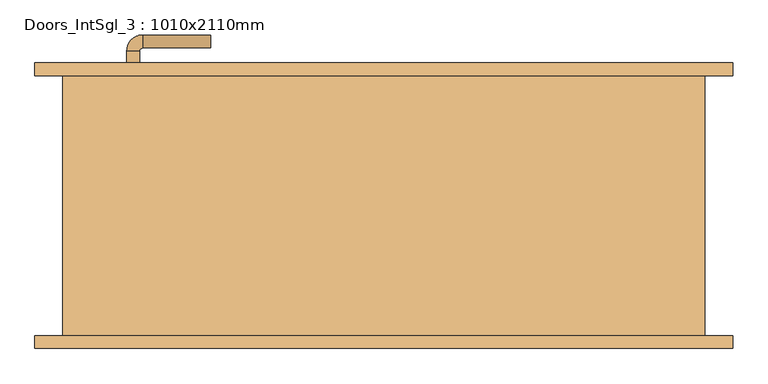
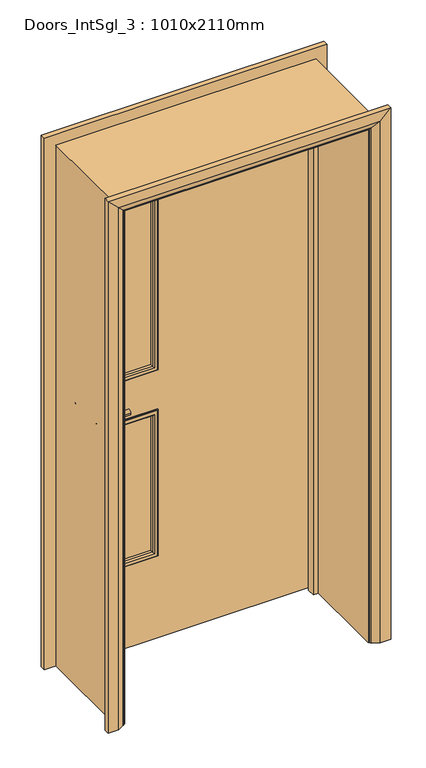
"""IFC4 building model written with IfcOpenShell, lengths in millimetres: door geometry, Doors_IntSgl_3 : 1010x2110mm."""

from ifc_helpers import new_model, si_unit, point, frame, frame_2d, origin, place, context, project, spatial, polyline, circle_curve, ellipse_curve, trimmed, segment, composite_curve, outline, extrude, faceted_brep, source, transform, mapped, element, save
from ifc_brep_helpers import plane_surface, cylinder_surface, revolved_surface, advanced_brep


def doors_intsgl_3_1010x2110mm_e17657ac(model_context):
    return source(origin(), model_context, "Body", "SolidModel", [
        advanced_brep(
        [(-398.0, 155.0, 1000.0), (-378.0, 155.0, 1000.0), (-378.0, 125.0, 1000.0), (-398.0, 125.0, 1000.0), (-373.0, 120.0, 1000.0), (-373.0, 100.0, 1000.0), (-268.0, 100.0, 1000.0), (-268.0, 120.0, 1000.0)],
        [
            (0, 1, circle_curve(frame((-388.0, 155.0, 1000.0), z_axis=(0.0, 1.0, 0.0), x_axis=(1.0, 0.0, 0.0)), 10.0)),
            (1, 0, circle_curve(frame((-388.0, 155.0, 1000.0), z_axis=(0.0, 1.0, 0.0), x_axis=(1.0, 0.0, 0.0)), 10.0)),
            (1, 2),
            (2, 3, circle_curve(frame((-388.0, 125.0, 1000.0), z_axis=(0.0, 1.0, 0.0), x_axis=(1.0, 0.0, 0.0)), 10.0)),
            (3, 0),
            (3, 2, circle_curve(frame((-388.0, 125.0, 1000.0), z_axis=(0.0, 1.0, 0.0), x_axis=(1.0, 0.0, 0.0)), 10.0)),
            (4, 5, circle_curve(frame((-373.0, 110.0, 1000.0), z_axis=(-1.0, 0.0, 0.0), x_axis=(0.0, 1.0, 0.0)), 10.0)),
            (5, 3, circle_curve(frame((-373.0, 125.0, 1000.0), z_axis=(0.0, 0.0, -1.0), x_axis=(-1.0, 0.0, 0.0)), 25.0)),
            (2, 4, circle_curve(frame((-373.0, 125.0, 1000.0), z_axis=(0.0, 0.0, 1.0), x_axis=(-1.0, 0.0, 0.0)), 5.0)),
            (5, 4, circle_curve(frame((-373.0, 110.0, 1000.0), z_axis=(-1.0, 0.0, 0.0), x_axis=(0.0, 1.0, 0.0)), 10.0)),
            (6, 7, circle_curve(frame((-268.0, 110.0, 1000.0), z_axis=(1.0, 0.0, 0.0), x_axis=(0.0, 1.0, 0.0)), 10.0)),
            (7, 6, circle_curve(frame((-268.0, 110.0, 1000.0), z_axis=(1.0, 0.0, 0.0), x_axis=(0.0, 1.0, 0.0)), 10.0)),
            (4, 7),
            (6, 5),
        ],
        [
            plane_surface(frame((-388.0, 155.0, 1000.0), z_axis=(0.0, 1.0, 0.0), x_axis=(0.0, 0.0, 1.0))),
            cylinder_surface(frame((-388.0, 155.0, 1000.0), z_axis=(0.0, 1.0, 0.0), x_axis=(1.0, 0.0, 0.0)), 10.0),
            revolved_surface(trimmed(ellipse_curve(frame((-388.0, 125.0, 1000.0), z_axis=(0.0, -1.0, 0.0), x_axis=(1.0, 0.0, 0.0)), 10.0, 10.0), [point((-398.0, 125.0, 1000.0))], [point((-378.0, 125.0, 1000.0))], True, "CARTESIAN"), (-373.0, 125.0, 1000.0), (0.0, 0.0, -1.0)),
            revolved_surface(trimmed(ellipse_curve(frame((-388.0, 125.0, 1000.0), z_axis=(0.0, -1.0, 0.0), x_axis=(1.0, 0.0, 0.0)), 10.0, 10.0), [point((-378.0, 125.0, 1000.0))], [point((-398.0, 125.0, 1000.0))], True, "CARTESIAN"), (-373.0, 125.0, 1000.0), (0.0, 0.0, -1.0)),
            plane_surface(frame((-268.0, 110.0, 1000.0), z_axis=(1.0, 0.0, 0.0), x_axis=(0.0, 0.0, 1.0))),
            cylinder_surface(frame((-373.0, 110.0, 1000.0), z_axis=(-1.0, 0.0, 0.0), x_axis=(0.0, 1.0, 0.0)), 10.0),
        ],
        [
            (0, [[1, 2]]),
            (1, [[3, 4, 5, -2]]),
            (1, [[-5, 6, -3, -1]]),
            (2, [[7, 8, -4, 9]]),
            (3, [[10, -9, -6, -8]]),
            (4, [[11, 12]]),
            (5, [[13, -11, 14, -7]]),
            (5, [[-14, -12, -13, -10]]),
        ],
    ),
        extrude(outline(composite_curve([segment(trimmed(circle_curve(frame_2d((1000.0, -390.5)), 30.0), [point((1000.0, -420.5))], [point((1000.0, -360.5))], False, "CARTESIAN"), True, "CONTINUOUS"), segment(trimmed(circle_curve(frame_2d((1000.0, -390.5)), 30.0), [point((1000.0, -360.5))], [point((1000.0, -420.5))], False, "CARTESIAN"), True, "CONTINUOUS")], self_intersect=False)), frame((0.0, 155.0, 0.0), z_axis=(0.0, 1.0, 0.0), x_axis=(0.0, 0.0, 1.0)), (0.0, 0.0, 1.0), 8.0),
        advanced_brep(
        [(-398.0, 209.0, 1000.0), (-378.0, 209.0, 1000.0), (-398.0, 239.0, 1000.0), (-378.0, 239.0, 1000.0), (-373.0, 244.0, 1000.0), (-373.0, 264.0, 1000.0), (-268.0, 264.0, 1000.0), (-268.0, 244.0, 1000.0)],
        [
            (0, 1, circle_curve(frame((-388.0, 209.0, 1000.0), z_axis=(0.0, -1.0, 0.0), x_axis=(1.0, 0.0, 0.0)), 10.0)),
            (1, 0, circle_curve(frame((-388.0, 209.0, 1000.0), z_axis=(0.0, -1.0, 0.0), x_axis=(1.0, 0.0, 0.0)), 10.0)),
            (0, 2),
            (2, 3, circle_curve(frame((-388.0, 239.0, 1000.0), z_axis=(0.0, -1.0, 0.0), x_axis=(1.0, 0.0, 0.0)), 10.0)),
            (3, 1),
            (3, 2, circle_curve(frame((-388.0, 239.0, 1000.0), z_axis=(0.0, -1.0, 0.0), x_axis=(1.0, 0.0, 0.0)), 10.0)),
            (4, 3, circle_curve(frame((-373.0, 239.0, 1000.0), z_axis=(0.0, 0.0, 1.0), x_axis=(-1.0, 0.0, 0.0)), 5.0)),
            (2, 5, circle_curve(frame((-373.0, 239.0, 1000.0), z_axis=(0.0, 0.0, -1.0), x_axis=(-1.0, 0.0, 0.0)), 25.0)),
            (5, 4, circle_curve(frame((-373.0, 254.0, 1000.0), z_axis=(-1.0, 0.0, 0.0), x_axis=(0.0, -1.0, 0.0)), 10.0)),
            (4, 5, circle_curve(frame((-373.0, 254.0, 1000.0), z_axis=(-1.0, 0.0, 0.0), x_axis=(0.0, -1.0, 0.0)), 10.0)),
            (6, 7, circle_curve(frame((-268.0, 254.0, 1000.0), z_axis=(1.0, 0.0, 0.0), x_axis=(0.0, -1.0, 0.0)), 10.0)),
            (7, 6, circle_curve(frame((-268.0, 254.0, 1000.0), z_axis=(1.0, 0.0, 0.0), x_axis=(0.0, -1.0, 0.0)), 10.0)),
            (5, 6),
            (7, 4),
        ],
        [
            plane_surface(frame((-388.0, 209.0, 1000.0), z_axis=(0.0, -1.0, 0.0), x_axis=(0.0, 0.0, 1.0))),
            cylinder_surface(frame((-388.0, 209.0, 1000.0), z_axis=(0.0, -1.0, 0.0), x_axis=(1.0, 0.0, 0.0)), 10.0),
            revolved_surface(trimmed(ellipse_curve(frame((-388.0, 239.0, 1000.0), z_axis=(0.0, -1.0, 0.0), x_axis=(1.0, 0.0, 0.0)), 10.0, 10.0), [point((-398.0, 239.0, 1000.0))], [point((-378.0, 239.0, 1000.0))], True, "CARTESIAN"), (-373.0, 239.0, 1000.0), (0.0, 0.0, -1.0)),
            revolved_surface(trimmed(ellipse_curve(frame((-388.0, 239.0, 1000.0), z_axis=(0.0, -1.0, 0.0), x_axis=(1.0, 0.0, 0.0)), 10.0, 10.0), [point((-378.0, 239.0, 1000.0))], [point((-398.0, 239.0, 1000.0))], True, "CARTESIAN"), (-373.0, 239.0, 1000.0), (0.0, 0.0, -1.0)),
            plane_surface(frame((-268.0, 254.0, 1000.0), z_axis=(1.0, 0.0, 0.0), x_axis=(0.0, 0.0, 1.0))),
            cylinder_surface(frame((-373.0, 254.0, 1000.0), z_axis=(-1.0, 0.0, 0.0), x_axis=(0.0, -1.0, 0.0)), 10.0),
        ],
        [
            (0, [[1, 2]]),
            (1, [[-1, 3, 4, 5]]),
            (1, [[-2, -5, 6, -3]]),
            (2, [[7, -4, 8, 9]]),
            (3, [[-8, -6, -7, 10]]),
            (4, [[11, 12]]),
            (5, [[-9, 13, -12, 14]]),
            (5, [[-10, -14, -11, -13]]),
        ],
    ),
        extrude(outline(composite_curve([segment(trimmed(circle_curve(frame_2d((1000.0, -390.5)), 30.0), [point((1000.0, -420.5))], [point((1000.0, -360.5))], False, "CARTESIAN"), True, "CONTINUOUS"), segment(trimmed(circle_curve(frame_2d((1000.0, -390.5)), 30.0), [point((1000.0, -360.5))], [point((1000.0, -420.5))], False, "CARTESIAN"), True, "CONTINUOUS")], self_intersect=False)), frame((0.0, 201.0, 0.0), z_axis=(0.0, 1.0, 0.0), x_axis=(0.0, 0.0, 1.0)), (0.0, 0.0, 1.0), 8.0),
        extrude(outline(polyline([(2068.0, -463.0), (8.0, -463.0), (8.0, 463.0), (2068.0, 463.0), (2068.0, -463.0)]), holes=[polyline([(1843.0, -138.0), (1100.0, -138.0), (1100.0, -338.0), (1843.0, -338.0), (1843.0, -138.0)]), polyline([(925.0, -338.0), (925.0, -138.0), (350.0, -138.0), (350.0, -338.0), (925.0, -338.0)])]), frame((0.0, 163.0, 0.0), z_axis=(0.0, 1.0, 0.0), x_axis=(0.0, 0.0, 1.0)), (0.0, 0.0, 1.0), 38.0),
        advanced_brep(
        [(540.0, 221.0, 0.0), (540.0, 201.0, 0.0), (470.0, 201.0, 0.0), (474.0, 207.0, 0.0), (500.0, 221.0, 0.0), (540.0, 221.0, 2145.0), (540.0, 201.0, 2145.0), (-540.0, 201.0, 2145.0), (-540.0, 201.0, 0.0), (-470.0, 201.0, 0.0), (-470.0, 201.0, 2075.0), (470.0, 201.0, 2075.0), (474.0, 207.0, 2079.0), (500.0, 221.0, 2105.0), (-500.0, 221.0, 2105.0), (-500.0, 221.0, 0.0), (-540.0, 221.0, 0.0), (-540.0, 221.0, 2145.0), (-474.0, 207.0, 0.0), (-474.0, 207.0, 2079.0)],
        [
            (0, 1),
            (1, 2),
            (2, 3, circle_curve(frame((478.0, 200.0, 0.0), z_axis=(0.0, 0.0, -1.0), x_axis=(1.0, 0.0, 0.0)), 8.0622577)),
            (3, 4),
            (4, 0),
            (0, 5),
            (5, 6),
            (6, 1),
            (6, 7),
            (7, 8),
            (8, 9),
            (9, 10),
            (10, 11),
            (11, 2),
            (11, 12, ellipse_curve(frame((478.0, 200.0, 2083.0), z_axis=(0.7071067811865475, 0.0, -0.7071067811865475), x_axis=(-0.7071067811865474, 0.0, -0.7071067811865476)), 11.4017543, 8.0622577)),
            (12, 3),
            (12, 13),
            (13, 4),
            (13, 14),
            (14, 15),
            (15, 16),
            (16, 17),
            (17, 5),
            (7, 17),
            (16, 8),
            (15, 18),
            (18, 9, circle_curve(frame((-478.0, 200.0, 0.0), z_axis=(0.0, 0.0, -1.0), x_axis=(-1.0, 0.0, 0.0)), 8.0622577)),
            (19, 10, ellipse_curve(frame((-478.0, 200.0, 2083.0), z_axis=(-0.7071067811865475, 0.0, -0.7071067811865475), x_axis=(-0.7071067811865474, 0.0, 0.7071067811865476)), 11.4017543, 8.0622577)),
            (18, 19),
            (14, 19),
            (19, 12),
        ],
        [
            plane_surface(frame((470.0, 201.0, 0.0), z_axis=(0.0, 0.0, -1.0), x_axis=(0.0, -1.0, 0.0))),
            plane_surface(frame((540.0, 221.0, 0.0), z_axis=(1.0, 0.0, 0.0), x_axis=(0.0, 0.0, 1.0))),
            plane_surface(frame((540.0, 201.0, 0.0), z_axis=(0.0, -1.0, 0.0), x_axis=(0.0, 0.0, 1.0))),
            cylinder_surface(frame((478.0, 200.0, 0.0), z_axis=(0.0, 0.0, -1.0), x_axis=(1.0, 0.0, 0.0)), 8.0622577),
            plane_surface(frame((474.0, 207.0, 0.0), z_axis=(-0.4740998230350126, 0.8804710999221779, 0.0), x_axis=(0.0, 0.0, 1.0))),
            plane_surface(frame((500.0, 221.0, 0.0), z_axis=(0.0, 1.0, 0.0), x_axis=(0.0, 0.0, 1.0))),
            plane_surface(frame((-540.0, 221.0, 2145.0), z_axis=(-1.0, 0.0, 0.0), x_axis=(0.0, 0.0, -1.0))),
            plane_surface(frame((-470.0, 201.0, 0.0), z_axis=(0.0, 0.0, -1.0), x_axis=(0.0, -1.0, 0.0))),
            cylinder_surface(frame((-478.0, 200.0, 2075.0), z_axis=(0.0, 0.0, 1.0), x_axis=(-1.0, 0.0, 0.0)), 8.0622577),
            plane_surface(frame((-474.0, 207.0, 2079.0), z_axis=(0.4740998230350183, 0.8804710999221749, 0.0), x_axis=(0.0, 0.0, -1.0))),
            plane_surface(frame((540.0, 221.0, 2145.0), z_axis=(0.0, 0.0, 1.0), x_axis=(-1.0, 0.0, 0.0))),
            cylinder_surface(frame((470.0, 200.0, 2083.0), z_axis=(1.0, 0.0, 0.0), x_axis=(0.0, 0.0, 1.0)), 8.0622577),
            plane_surface(frame((474.0, 207.0, 2079.0), z_axis=(0.0, 0.8804710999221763, -0.4740998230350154), x_axis=(-1.0, 0.0, 0.0))),
        ],
        [
            (0, [[1, 2, 3, 4, 5]]),
            (1, [[-1, 6, 7, 8]]),
            (2, [[-2, -8, 9, 10, 11, 12, 13, 14]]),
            (3, [[-3, -14, 15, 16]]),
            (4, [[-4, -16, 17, 18]]),
            (5, [[-5, -18, 19, 20, 21, 22, 23, -6]]),
            (6, [[24, -22, 25, -10]]),
            (7, [[-21, 26, 27, -11, -25]]),
            (8, [[28, -12, -27, 29]]),
            (9, [[30, -29, -26, -20]]),
            (10, [[-7, -23, -24, -9]]),
            (11, [[-15, -13, -28, 31]]),
            (12, [[-17, -31, -30, -19]]),
        ],
    ),
        extrude(outline(polyline([(0.0, -465.0), (0.0, -446.0), (2051.0, -446.0), (2051.0, 446.0), (0.0, 446.0), (0.0, 465.0), (2070.0, 465.0), (2070.0, -465.0), (0.0, -465.0)])), frame((0.0, 129.0, 0.0), z_axis=(0.0, 1.0, 0.0), x_axis=(0.0, 0.0, 1.0)), (0.0, 0.0, 1.0), 32.0),
        advanced_brep(
        [(-540.0, -221.0, 0.0), (-540.0, -201.0, 0.0), (-470.0, -201.0, 0.0), (-474.0, -207.0, 0.0), (-500.0, -221.0, 0.0), (-540.0, -221.0, 2145.0), (-540.0, -201.0, 2145.0), (-470.0, -201.0, 2075.0), (-474.0, -207.0, 2079.0), (-500.0, -221.0, 2105.0), (540.0, -221.0, 0.0), (500.0, -221.0, 0.0), (474.0, -207.0, 0.0), (470.0, -201.0, 0.0), (540.0, -201.0, 0.0), (540.0, -221.0, 2145.0), (500.0, -221.0, 2105.0), (474.0, -207.0, 2079.0), (470.0, -201.0, 2075.0), (540.0, -201.0, 2145.0)],
        [
            (0, 1),
            (1, 2),
            (2, 3, circle_curve(frame((-478.0, -200.0, 0.0), z_axis=(0.0, 0.0, -1.0), x_axis=(-1.0, 0.0, 0.0)), 8.0622577)),
            (3, 4),
            (4, 0),
            (0, 5),
            (5, 6),
            (6, 1),
            (6, 7),
            (7, 2),
            (7, 8, ellipse_curve(frame((-478.0, -200.0, 2083.0), z_axis=(-0.7071067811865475, 0.0, -0.7071067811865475), x_axis=(0.7071067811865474, 0.0, -0.7071067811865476)), 11.4017543, 8.0622577)),
            (8, 3),
            (8, 9),
            (9, 4),
            (9, 5),
            (10, 11),
            (11, 12),
            (12, 13, circle_curve(frame((478.0, -200.0, 0.0), z_axis=(0.0, 0.0, -1.0), x_axis=(1.0, 0.0, 0.0)), 8.0622577)),
            (13, 14),
            (14, 10),
            (15, 16),
            (16, 11),
            (10, 15),
            (16, 17),
            (17, 12),
            (17, 18, ellipse_curve(frame((478.0, -200.0, 2083.0), z_axis=(0.7071067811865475, 0.0, -0.7071067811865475), x_axis=(0.7071067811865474, 0.0, 0.7071067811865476)), 11.4017543, 8.0622577)),
            (18, 13),
            (18, 19),
            (19, 14),
            (19, 15),
            (5, 15),
            (19, 6),
            (18, 7),
            (17, 8),
            (16, 9),
        ],
        [
            plane_surface(frame((-470.0, -273.8010989, 0.0), z_axis=(0.0, 0.0, -1.0), x_axis=(1.0, 0.0, 0.0))),
            plane_surface(frame((-540.0, -221.0, 0.0), z_axis=(-1.0, 0.0, 0.0), x_axis=(0.0, 0.0, 1.0))),
            plane_surface(frame((-540.0, -201.0, 0.0), z_axis=(0.0, 1.0, 0.0), x_axis=(0.0, 0.0, 1.0))),
            cylinder_surface(frame((-478.0, -200.0, 0.0), z_axis=(0.0, 0.0, -1.0), x_axis=(-1.0, 0.0, 0.0)), 8.0622577),
            plane_surface(frame((-474.0, -207.0, 0.0), z_axis=(0.4740998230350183, -0.8804710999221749, 0.0), x_axis=(0.0, 0.0, 1.0))),
            plane_surface(frame((-500.0, -221.0, 0.0), z_axis=(0.0, -1.0, 0.0), x_axis=(0.0, 0.0, 1.0))),
            plane_surface(frame((470.0, -273.8010989, 0.0), z_axis=(0.0, 0.0, -1.0), x_axis=(-1.0, 0.0, 0.0))),
            plane_surface(frame((500.0, -221.0, 2105.0), z_axis=(0.0, -1.0, 0.0), x_axis=(0.0, 0.0, -1.0))),
            plane_surface(frame((474.0, -207.0, 2079.0), z_axis=(-0.4740998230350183, -0.8804710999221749, 0.0), x_axis=(0.0, 0.0, -1.0))),
            cylinder_surface(frame((478.0, -200.0, 2075.0), z_axis=(0.0, 0.0, 1.0), x_axis=(1.0, 0.0, 0.0)), 8.0622577),
            plane_surface(frame((540.0, -201.0, 2145.0), z_axis=(0.0, 1.0, 0.0), x_axis=(0.0, 0.0, -1.0))),
            plane_surface(frame((540.0, -221.0, 2145.0), z_axis=(1.0, 0.0, 0.0), x_axis=(0.0, 0.0, -1.0))),
            plane_surface(frame((-540.0, -221.0, 2145.0), z_axis=(0.0, 0.0, 1.0), x_axis=(1.0, 0.0, 0.0))),
            plane_surface(frame((-540.0, -201.0, 2145.0), z_axis=(0.0, 1.0, 0.0), x_axis=(1.0, 0.0, 0.0))),
            cylinder_surface(frame((-470.0, -200.0, 2083.0), z_axis=(-1.0, 0.0, 0.0), x_axis=(0.0, 0.0, 1.0)), 8.0622577),
            plane_surface(frame((-474.0, -207.0, 2079.0), z_axis=(0.0, -0.8804710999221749, -0.4740998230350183), x_axis=(1.0, 0.0, 0.0))),
            plane_surface(frame((-500.0, -221.0, 2105.0), z_axis=(0.0, -1.0, 0.0), x_axis=(1.0, 0.0, 0.0))),
        ],
        [
            (0, [[1, 2, 3, 4, 5]]),
            (1, [[-1, 6, 7, 8]]),
            (2, [[-2, -8, 9, 10]]),
            (3, [[-3, -10, 11, 12]]),
            (4, [[-4, -12, 13, 14]]),
            (5, [[-5, -14, 15, -6]]),
            (6, [[16, 17, 18, 19, 20]]),
            (7, [[21, 22, -16, 23]]),
            (8, [[24, 25, -17, -22]]),
            (9, [[26, 27, -18, -25]]),
            (10, [[28, 29, -19, -27]]),
            (11, [[30, -23, -20, -29]]),
            (12, [[-7, 31, -30, 32]]),
            (13, [[-9, -32, -28, 33]]),
            (14, [[-11, -33, -26, 34]]),
            (15, [[-13, -34, -24, 35]]),
            (16, [[-15, -35, -21, -31]]),
        ],
    ),
        faceted_brep([(-465.0, 201.0, 0.0), (-465.0, -201.0, 0.0), (-497.0, -201.0, 0.0), (-497.0, 201.0, 0.0), (-465.0, 201.0, 2070.0), (-465.0, -201.0, 2070.0), (-497.0, -201.0, 2102.0), (-497.0, 201.0, 2102.0), (465.0, 201.0, 0.0), (497.0, 201.0, 0.0), (497.0, -201.0, 0.0), (465.0, -201.0, 0.0), (465.0, 201.0, 2070.0), (497.0, 201.0, 2102.0), (497.0, -201.0, 2102.0), (465.0, -201.0, 2070.0)], [[[0, 1, 2, 3]], [[1, 0, 4, 5]], [[2, 1, 5, 6]], [[3, 2, 6, 7]], [[0, 3, 7, 4]], [[8, 9, 10, 11]], [[12, 13, 9, 8]], [[13, 14, 10, 9]], [[14, 15, 11, 10]], [[15, 12, 8, 11]], [[5, 4, 12, 15]], [[6, 5, 15, 14]], [[7, 6, 14, 13]], [[4, 7, 13, 12]]]),
        advanced_brep(
        [(-138.0, 173.0, 925.0), (-138.0, 163.0, 925.0), (-138.0, 163.0, 350.0), (-138.0, 173.0, 350.0), (-150.0, 162.0, 913.0), (-150.0, 173.0, 913.0), (-150.0, 173.0, 362.0), (-150.0, 162.0, 362.0), (-145.0, 157.0, 918.0), (-145.0, 157.0, 357.0), (-130.0, 159.0, 933.0), (-132.0, 157.0, 931.0), (-132.0, 157.0, 344.0), (-130.0, 159.0, 342.0), (-130.0, 163.0, 933.0), (-130.0, 163.0, 342.0), (-338.0, 163.0, 350.0), (-338.0, 173.0, 350.0), (-326.0, 173.0, 362.0), (-326.0, 162.0, 362.0), (-331.0, 157.0, 357.0), (-344.0, 157.0, 344.0), (-346.0, 159.0, 342.0), (-346.0, 163.0, 342.0), (-338.0, 163.0, 925.0), (-338.0, 173.0, 925.0), (-326.0, 173.0, 913.0), (-326.0, 162.0, 913.0), (-331.0, 157.0, 918.0), (-344.0, 157.0, 931.0), (-346.0, 159.0, 933.0), (-346.0, 163.0, 933.0)],
        [
            (0, 1),
            (1, 2),
            (2, 3),
            (3, 0),
            (4, 5),
            (5, 6),
            (6, 7),
            (7, 4),
            (8, 4, ellipse_curve(frame((-145.0, 162.0, 918.0), z_axis=(0.7071067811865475, 0.0, -0.7071067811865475), x_axis=(0.7071067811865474, 0.0, 0.7071067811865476)), 7.0710678, 5.0)),
            (7, 9, ellipse_curve(frame((-145.0, 162.0, 357.0), z_axis=(0.7071067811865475, 0.0, 0.7071067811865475), x_axis=(-0.7071067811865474, 0.0, 0.7071067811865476)), 7.0710678, 5.0)),
            (9, 8),
            (10, 11, ellipse_curve(frame((-132.0, 159.0, 931.0), z_axis=(0.7071067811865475, 0.0, -0.7071067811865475), x_axis=(0.7071067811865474, 0.0, 0.7071067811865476)), 2.8284271, 2.0)),
            (11, 12),
            (12, 13, ellipse_curve(frame((-132.0, 159.0, 344.0), z_axis=(0.7071067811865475, 0.0, 0.7071067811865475), x_axis=(-0.7071067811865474, 0.0, 0.7071067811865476)), 2.8284271, 2.0)),
            (13, 10),
            (14, 10),
            (13, 15),
            (15, 14),
            (2, 16),
            (16, 17),
            (17, 3),
            (6, 18),
            (18, 19),
            (19, 7),
            (19, 20, ellipse_curve(frame((-331.0, 162.0, 357.0), z_axis=(0.7071067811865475, 0.0, -0.7071067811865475), x_axis=(0.7071067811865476, 0.0, 0.7071067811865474)), 7.0710678, 5.0)),
            (20, 9),
            (12, 21),
            (21, 22, ellipse_curve(frame((-344.0, 159.0, 344.0), z_axis=(0.7071067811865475, 0.0, -0.7071067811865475), x_axis=(0.7071067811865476, 0.0, 0.7071067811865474)), 2.8284271, 2.0)),
            (22, 13),
            (22, 23),
            (23, 15),
            (16, 24),
            (24, 25),
            (25, 17),
            (18, 26),
            (26, 27),
            (27, 19),
            (27, 28, ellipse_curve(frame((-331.0, 162.0, 918.0), z_axis=(-0.7071067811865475, 0.0, -0.7071067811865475), x_axis=(0.7071067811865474, 0.0, -0.7071067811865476)), 7.0710678, 5.0)),
            (28, 20),
            (21, 29),
            (29, 30, ellipse_curve(frame((-344.0, 159.0, 931.0), z_axis=(-0.7071067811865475, 0.0, -0.7071067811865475), x_axis=(0.7071067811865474, 0.0, -0.7071067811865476)), 2.8284271, 2.0)),
            (30, 22),
            (30, 31),
            (31, 23),
            (31, 14),
            (1, 24),
            (0, 25),
            (5, 26),
            (4, 27),
            (8, 28),
            (11, 29),
            (10, 30),
        ],
        [
            plane_surface(frame((-138.0, 163.0, 925.0), z_axis=(1.0, 0.0, 0.0), x_axis=(0.0, 0.0, -1.0))),
            plane_surface(frame((-150.0, 173.0, 913.0), z_axis=(-1.0, 0.0, 0.0), x_axis=(0.0, 0.0, -1.0))),
            cylinder_surface(frame((-145.0, 162.0, 925.0), z_axis=(0.0, 0.0, 1.0), x_axis=(1.0, 0.0, 0.0)), 5.0),
            cylinder_surface(frame((-132.0, 159.0, 925.0), z_axis=(0.0, 0.0, 1.0), x_axis=(1.0, 0.0, 0.0)), 2.0),
            plane_surface(frame((-130.0, 159.0, 933.0), z_axis=(1.0, 0.0, 0.0), x_axis=(0.0, 0.0, -1.0))),
            plane_surface(frame((-138.0, 163.0, 350.0), z_axis=(0.0, 0.0, -1.0), x_axis=(-1.0, 0.0, 0.0))),
            plane_surface(frame((-150.0, 173.0, 362.0), z_axis=(0.0, 0.0, 1.0), x_axis=(-1.0, 0.0, 0.0))),
            cylinder_surface(frame((-138.0, 162.0, 357.0), z_axis=(1.0, 0.0, 0.0), x_axis=(0.0, 0.0, -1.0)), 5.0),
            cylinder_surface(frame((-138.0, 159.0, 344.0), z_axis=(1.0, 0.0, 0.0), x_axis=(0.0, 0.0, -1.0)), 2.0),
            plane_surface(frame((-130.0, 159.0, 342.0), z_axis=(0.0, 0.0, -1.0), x_axis=(-1.0, 0.0, 0.0))),
            plane_surface(frame((-338.0, 163.0, 350.0), z_axis=(-1.0, 0.0, 0.0), x_axis=(0.0, 0.0, 1.0))),
            plane_surface(frame((-326.0, 173.0, 362.0), z_axis=(1.0, 0.0, 0.0), x_axis=(0.0, 0.0, 1.0))),
            cylinder_surface(frame((-331.0, 162.0, 350.0), z_axis=(0.0, 0.0, -1.0), x_axis=(-1.0, 0.0, 0.0)), 5.0),
            cylinder_surface(frame((-344.0, 159.0, 350.0), z_axis=(0.0, 0.0, -1.0), x_axis=(-1.0, 0.0, 0.0)), 2.0),
            plane_surface(frame((-346.0, 159.0, 342.0), z_axis=(-1.0, 0.0, 0.0), x_axis=(0.0, 0.0, 1.0))),
            plane_surface(frame((-346.0, 163.0, 933.0), z_axis=(0.0, 1.0, 0.0), x_axis=(1.0, 0.0, 0.0))),
            plane_surface(frame((-338.0, 163.0, 925.0), z_axis=(0.0, 0.0, 1.0), x_axis=(1.0, 0.0, 0.0))),
            plane_surface(frame((-338.0, 173.0, 925.0), z_axis=(0.0, 1.0, 0.0), x_axis=(1.0, 0.0, 0.0))),
            plane_surface(frame((-326.0, 173.0, 913.0), z_axis=(0.0, 0.0, -1.0), x_axis=(1.0, 0.0, 0.0))),
            cylinder_surface(frame((-338.0, 162.0, 918.0), z_axis=(-1.0, 0.0, 0.0), x_axis=(0.0, 0.0, 1.0)), 5.0),
            plane_surface(frame((-331.0, 157.0, 918.0), z_axis=(0.0, -1.0, 0.0), x_axis=(1.0, 0.0, 0.0))),
            cylinder_surface(frame((-338.0, 159.0, 931.0), z_axis=(-1.0, 0.0, 0.0), x_axis=(0.0, 0.0, 1.0)), 2.0),
            plane_surface(frame((-346.0, 159.0, 933.0), z_axis=(0.0, 0.0, 1.0), x_axis=(1.0, 0.0, 0.0))),
        ],
        [
            (0, [[1, 2, 3, 4]]),
            (1, [[5, 6, 7, 8]]),
            (2, [[9, -8, 10, 11]]),
            (3, [[12, 13, 14, 15]]),
            (4, [[16, -15, 17, 18]]),
            (5, [[-3, 19, 20, 21]]),
            (6, [[-7, 22, 23, 24]]),
            (7, [[-10, -24, 25, 26]]),
            (8, [[-14, 27, 28, 29]]),
            (9, [[-17, -29, 30, 31]]),
            (10, [[-20, 32, 33, 34]]),
            (11, [[-23, 35, 36, 37]]),
            (12, [[-25, -37, 38, 39]]),
            (13, [[-28, 40, 41, 42]]),
            (14, [[-30, -42, 43, 44]]),
            (15, [[-31, -44, 45, -18], [46, -32, -19, -2]]),
            (16, [[-33, -46, -1, 47]]),
            (17, [[-21, -34, -47, -4], [48, -35, -22, -6]]),
            (18, [[-36, -48, -5, 49]]),
            (19, [[-38, -49, -9, 50]]),
            (20, [[51, -40, -27, -13], [-26, -39, -50, -11]]),
            (21, [[-41, -51, -12, 52]]),
            (22, [[-43, -52, -16, -45]]),
        ],
    ),
        advanced_brep(
        [(-338.0, 191.0, 925.0), (-338.0, 201.0, 925.0), (-338.0, 201.0, 350.0), (-338.0, 191.0, 350.0), (-326.0, 202.0, 913.0), (-326.0, 191.0, 913.0), (-326.0, 191.0, 362.0), (-326.0, 202.0, 362.0), (-331.0, 207.0, 918.0), (-331.0, 207.0, 357.0), (-346.0, 205.0, 933.0), (-344.0, 207.0, 931.0), (-344.0, 207.0, 344.0), (-346.0, 205.0, 342.0), (-346.0, 201.0, 933.0), (-346.0, 201.0, 342.0), (-138.0, 201.0, 350.0), (-138.0, 191.0, 350.0), (-150.0, 191.0, 362.0), (-150.0, 202.0, 362.0), (-145.0, 207.0, 357.0), (-132.0, 207.0, 344.0), (-130.0, 205.0, 342.0), (-130.0, 201.0, 342.0), (-138.0, 201.0, 925.0), (-138.0, 191.0, 925.0), (-150.0, 191.0, 913.0), (-150.0, 202.0, 913.0), (-145.0, 207.0, 918.0), (-132.0, 207.0, 931.0), (-130.0, 205.0, 933.0), (-130.0, 201.0, 933.0)],
        [
            (0, 1),
            (1, 2),
            (2, 3),
            (3, 0),
            (4, 5),
            (5, 6),
            (6, 7),
            (7, 4),
            (8, 4, ellipse_curve(frame((-331.0, 202.0, 918.0), z_axis=(-0.7071067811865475, 0.0, -0.7071067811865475), x_axis=(-0.7071067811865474, 0.0, 0.7071067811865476)), 7.0710678, 5.0)),
            (7, 9, ellipse_curve(frame((-331.0, 202.0, 357.0), z_axis=(-0.7071067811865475, 0.0, 0.7071067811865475), x_axis=(0.7071067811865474, 0.0, 0.7071067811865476)), 7.0710678, 5.0)),
            (9, 8),
            (10, 11, ellipse_curve(frame((-344.0, 205.0, 931.0), z_axis=(-0.7071067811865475, 0.0, -0.7071067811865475), x_axis=(-0.7071067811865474, 0.0, 0.7071067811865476)), 2.8284271, 2.0)),
            (11, 12),
            (12, 13, ellipse_curve(frame((-344.0, 205.0, 344.0), z_axis=(-0.7071067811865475, 0.0, 0.7071067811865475), x_axis=(0.7071067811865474, 0.0, 0.7071067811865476)), 2.8284271, 2.0)),
            (13, 10),
            (14, 10),
            (13, 15),
            (15, 14),
            (2, 16),
            (16, 17),
            (17, 3),
            (6, 18),
            (18, 19),
            (19, 7),
            (19, 20, ellipse_curve(frame((-145.0, 202.0, 357.0), z_axis=(-0.7071067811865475, 0.0, -0.7071067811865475), x_axis=(-0.7071067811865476, 0.0, 0.7071067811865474)), 7.0710678, 5.0)),
            (20, 9),
            (12, 21),
            (21, 22, ellipse_curve(frame((-132.0, 205.0, 344.0), z_axis=(-0.7071067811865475, 0.0, -0.7071067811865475), x_axis=(-0.7071067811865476, 0.0, 0.7071067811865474)), 2.8284271, 2.0)),
            (22, 13),
            (22, 23),
            (23, 15),
            (16, 24),
            (24, 25),
            (25, 17),
            (18, 26),
            (26, 27),
            (27, 19),
            (27, 28, ellipse_curve(frame((-145.0, 202.0, 918.0), z_axis=(0.7071067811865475, 0.0, -0.7071067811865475), x_axis=(-0.7071067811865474, 0.0, -0.7071067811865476)), 7.0710678, 5.0)),
            (28, 20),
            (21, 29),
            (29, 30, ellipse_curve(frame((-132.0, 205.0, 931.0), z_axis=(0.7071067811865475, 0.0, -0.7071067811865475), x_axis=(-0.7071067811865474, 0.0, -0.7071067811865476)), 2.8284271, 2.0)),
            (30, 22),
            (30, 31),
            (31, 23),
            (31, 14),
            (1, 24),
            (0, 25),
            (5, 26),
            (4, 27),
            (8, 28),
            (11, 29),
            (10, 30),
        ],
        [
            plane_surface(frame((-338.0, 201.0, 925.0), z_axis=(-1.0, 0.0, 0.0), x_axis=(0.0, 0.0, -1.0))),
            plane_surface(frame((-326.0, 191.0, 913.0), z_axis=(1.0, 0.0, 0.0), x_axis=(0.0, 0.0, -1.0))),
            cylinder_surface(frame((-331.0, 202.0, 925.0), z_axis=(0.0, 0.0, 1.0), x_axis=(-1.0, 0.0, 0.0)), 5.0),
            cylinder_surface(frame((-344.0, 205.0, 925.0), z_axis=(0.0, 0.0, 1.0), x_axis=(-1.0, 0.0, 0.0)), 2.0),
            plane_surface(frame((-346.0, 205.0, 933.0), z_axis=(-1.0, 0.0, 0.0), x_axis=(0.0, 0.0, -1.0))),
            plane_surface(frame((-338.0, 201.0, 350.0), z_axis=(0.0, 0.0, -1.0), x_axis=(1.0, 0.0, 0.0))),
            plane_surface(frame((-326.0, 191.0, 362.0), z_axis=(0.0, 0.0, 1.0), x_axis=(1.0, 0.0, 0.0))),
            cylinder_surface(frame((-338.0, 202.0, 357.0), z_axis=(-1.0, 0.0, 0.0), x_axis=(0.0, 0.0, -1.0)), 5.0),
            cylinder_surface(frame((-338.0, 205.0, 344.0), z_axis=(-1.0, 0.0, 0.0), x_axis=(0.0, 0.0, -1.0)), 2.0),
            plane_surface(frame((-346.0, 205.0, 342.0), z_axis=(0.0, 0.0, -1.0), x_axis=(1.0, 0.0, 0.0))),
            plane_surface(frame((-138.0, 201.0, 350.0), z_axis=(1.0, 0.0, 0.0), x_axis=(0.0, 0.0, 1.0))),
            plane_surface(frame((-150.0, 191.0, 362.0), z_axis=(-1.0, 0.0, 0.0), x_axis=(0.0, 0.0, 1.0))),
            cylinder_surface(frame((-145.0, 202.0, 350.0), z_axis=(0.0, 0.0, -1.0), x_axis=(1.0, 0.0, 0.0)), 5.0),
            cylinder_surface(frame((-132.0, 205.0, 350.0), z_axis=(0.0, 0.0, -1.0), x_axis=(1.0, 0.0, 0.0)), 2.0),
            plane_surface(frame((-130.0, 205.0, 342.0), z_axis=(1.0, 0.0, 0.0), x_axis=(0.0, 0.0, 1.0))),
            plane_surface(frame((-130.0, 201.0, 933.0), z_axis=(0.0, -1.0, 0.0), x_axis=(-1.0, 0.0, 0.0))),
            plane_surface(frame((-138.0, 201.0, 925.0), z_axis=(0.0, 0.0, 1.0), x_axis=(-1.0, 0.0, 0.0))),
            plane_surface(frame((-138.0, 191.0, 925.0), z_axis=(0.0, -1.0, 0.0), x_axis=(-1.0, 0.0, 0.0))),
            plane_surface(frame((-150.0, 191.0, 913.0), z_axis=(0.0, 0.0, -1.0), x_axis=(-1.0, 0.0, 0.0))),
            cylinder_surface(frame((-138.0, 202.0, 918.0), z_axis=(1.0, 0.0, 0.0), x_axis=(0.0, 0.0, 1.0)), 5.0),
            plane_surface(frame((-145.0, 207.0, 918.0), z_axis=(0.0, 1.0, 0.0), x_axis=(-1.0, 0.0, 0.0))),
            cylinder_surface(frame((-138.0, 205.0, 931.0), z_axis=(1.0, 0.0, 0.0), x_axis=(0.0, 0.0, 1.0)), 2.0),
            plane_surface(frame((-130.0, 205.0, 933.0), z_axis=(0.0, 0.0, 1.0), x_axis=(-1.0, 0.0, 0.0))),
        ],
        [
            (0, [[1, 2, 3, 4]]),
            (1, [[5, 6, 7, 8]]),
            (2, [[9, -8, 10, 11]]),
            (3, [[12, 13, 14, 15]]),
            (4, [[16, -15, 17, 18]]),
            (5, [[-3, 19, 20, 21]]),
            (6, [[-7, 22, 23, 24]]),
            (7, [[-10, -24, 25, 26]]),
            (8, [[-14, 27, 28, 29]]),
            (9, [[-17, -29, 30, 31]]),
            (10, [[-20, 32, 33, 34]]),
            (11, [[-23, 35, 36, 37]]),
            (12, [[-25, -37, 38, 39]]),
            (13, [[-28, 40, 41, 42]]),
            (14, [[-30, -42, 43, 44]]),
            (15, [[-31, -44, 45, -18], [46, -32, -19, -2]]),
            (16, [[-33, -46, -1, 47]]),
            (17, [[-21, -34, -47, -4], [48, -35, -22, -6]]),
            (18, [[-36, -48, -5, 49]]),
            (19, [[-38, -49, -9, 50]]),
            (20, [[51, -40, -27, -13], [-26, -39, -50, -11]]),
            (21, [[-41, -51, -12, 52]]),
            (22, [[-43, -52, -16, -45]]),
        ],
    ),
        extrude(outline(polyline([(-338.0, 191.0), (-138.0, 191.0), (-138.0, 173.0), (-338.0, 173.0), (-338.0, 191.0)])), frame((0.0, 0.0, 1100.0), z_axis=(0.0, 0.0, 1.0), x_axis=(1.0, 0.0, 0.0)), (0.0, 0.0, 1.0), 743.0),
        extrude(outline(polyline([(-338.0, 191.0), (-138.0, 191.0), (-138.0, 173.0), (-338.0, 173.0), (-338.0, 191.0)])), frame((0.0, 0.0, 350.0), z_axis=(0.0, 0.0, 1.0), x_axis=(1.0, 0.0, 0.0)), (0.0, 0.0, 1.0), 575.0),
        advanced_brep(
        [(-138.0, 173.0, 1843.0), (-138.0, 163.0, 1843.0), (-138.0, 163.0, 1100.0), (-138.0, 173.0, 1100.0), (-150.0, 162.0, 1831.0), (-150.0, 173.0, 1831.0), (-150.0, 173.0, 1112.0), (-150.0, 162.0, 1112.0), (-145.0, 157.0, 1836.0), (-145.0, 157.0, 1107.0), (-130.0, 159.0, 1851.0), (-132.0, 157.0, 1849.0), (-132.0, 157.0, 1094.0), (-130.0, 159.0, 1092.0), (-130.0, 163.0, 1851.0), (-130.0, 163.0, 1092.0), (-338.0, 163.0, 1100.0), (-338.0, 173.0, 1100.0), (-326.0, 173.0, 1112.0), (-326.0, 162.0, 1112.0), (-331.0, 157.0, 1107.0), (-344.0, 157.0, 1094.0), (-346.0, 159.0, 1092.0), (-346.0, 163.0, 1092.0), (-338.0, 163.0, 1843.0), (-338.0, 173.0, 1843.0), (-326.0, 173.0, 1831.0), (-326.0, 162.0, 1831.0), (-331.0, 157.0, 1836.0), (-344.0, 157.0, 1849.0), (-346.0, 159.0, 1851.0), (-346.0, 163.0, 1851.0)],
        [
            (0, 1),
            (1, 2),
            (2, 3),
            (3, 0),
            (4, 5),
            (5, 6),
            (6, 7),
            (7, 4),
            (8, 4, ellipse_curve(frame((-145.0, 162.0, 1836.0), z_axis=(0.7071067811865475, 0.0, -0.7071067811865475), x_axis=(0.7071067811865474, 0.0, 0.7071067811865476)), 7.0710678, 5.0)),
            (7, 9, ellipse_curve(frame((-145.0, 162.0, 1107.0), z_axis=(0.7071067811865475, 0.0, 0.7071067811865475), x_axis=(-0.7071067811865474, 0.0, 0.7071067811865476)), 7.0710678, 5.0)),
            (9, 8),
            (10, 11, ellipse_curve(frame((-132.0, 159.0, 1849.0), z_axis=(0.7071067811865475, 0.0, -0.7071067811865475), x_axis=(0.7071067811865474, 0.0, 0.7071067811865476)), 2.8284271, 2.0)),
            (11, 12),
            (12, 13, ellipse_curve(frame((-132.0, 159.0, 1094.0), z_axis=(0.7071067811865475, 0.0, 0.7071067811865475), x_axis=(-0.7071067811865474, 0.0, 0.7071067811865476)), 2.8284271, 2.0)),
            (13, 10),
            (14, 10),
            (13, 15),
            (15, 14),
            (2, 16),
            (16, 17),
            (17, 3),
            (6, 18),
            (18, 19),
            (19, 7),
            (19, 20, ellipse_curve(frame((-331.0, 162.0, 1107.0), z_axis=(0.7071067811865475, 0.0, -0.7071067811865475), x_axis=(0.7071067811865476, 0.0, 0.7071067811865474)), 7.0710678, 5.0)),
            (20, 9),
            (12, 21),
            (21, 22, ellipse_curve(frame((-344.0, 159.0, 1094.0), z_axis=(0.7071067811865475, 0.0, -0.7071067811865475), x_axis=(0.7071067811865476, 0.0, 0.7071067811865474)), 2.8284271, 2.0)),
            (22, 13),
            (22, 23),
            (23, 15),
            (16, 24),
            (24, 25),
            (25, 17),
            (18, 26),
            (26, 27),
            (27, 19),
            (27, 28, ellipse_curve(frame((-331.0, 162.0, 1836.0), z_axis=(-0.7071067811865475, 0.0, -0.7071067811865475), x_axis=(0.7071067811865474, 0.0, -0.7071067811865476)), 7.0710678, 5.0)),
            (28, 20),
            (21, 29),
            (29, 30, ellipse_curve(frame((-344.0, 159.0, 1849.0), z_axis=(-0.7071067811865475, 0.0, -0.7071067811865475), x_axis=(0.7071067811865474, 0.0, -0.7071067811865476)), 2.8284271, 2.0)),
            (30, 22),
            (30, 31),
            (31, 23),
            (31, 14),
            (1, 24),
            (0, 25),
            (5, 26),
            (4, 27),
            (8, 28),
            (11, 29),
            (10, 30),
        ],
        [
            plane_surface(frame((-138.0, 163.0, 1843.0), z_axis=(1.0, 0.0, 0.0), x_axis=(0.0, 0.0, -1.0))),
            plane_surface(frame((-150.0, 173.0, 1831.0), z_axis=(-1.0, 0.0, 0.0), x_axis=(0.0, 0.0, -1.0))),
            cylinder_surface(frame((-145.0, 162.0, 1843.0), z_axis=(0.0, 0.0, 1.0), x_axis=(1.0, 0.0, 0.0)), 5.0),
            cylinder_surface(frame((-132.0, 159.0, 1843.0), z_axis=(0.0, 0.0, 1.0), x_axis=(1.0, 0.0, 0.0)), 2.0),
            plane_surface(frame((-130.0, 159.0, 1851.0), z_axis=(1.0, 0.0, 0.0), x_axis=(0.0, 0.0, -1.0))),
            plane_surface(frame((-138.0, 163.0, 1100.0), z_axis=(0.0, 0.0, -1.0), x_axis=(-1.0, 0.0, 0.0))),
            plane_surface(frame((-150.0, 173.0, 1112.0), z_axis=(0.0, 0.0, 1.0), x_axis=(-1.0, 0.0, 0.0))),
            cylinder_surface(frame((-138.0, 162.0, 1107.0), z_axis=(1.0, 0.0, 0.0), x_axis=(0.0, 0.0, -1.0)), 5.0),
            cylinder_surface(frame((-138.0, 159.0, 1094.0), z_axis=(1.0, 0.0, 0.0), x_axis=(0.0, 0.0, -1.0)), 2.0),
            plane_surface(frame((-130.0, 159.0, 1092.0), z_axis=(0.0, 0.0, -1.0), x_axis=(-1.0, 0.0, 0.0))),
            plane_surface(frame((-338.0, 163.0, 1100.0), z_axis=(-1.0, 0.0, 0.0), x_axis=(0.0, 0.0, 1.0))),
            plane_surface(frame((-326.0, 173.0, 1112.0), z_axis=(1.0, 0.0, 0.0), x_axis=(0.0, 0.0, 1.0))),
            cylinder_surface(frame((-331.0, 162.0, 1100.0), z_axis=(0.0, 0.0, -1.0), x_axis=(-1.0, 0.0, 0.0)), 5.0),
            cylinder_surface(frame((-344.0, 159.0, 1100.0), z_axis=(0.0, 0.0, -1.0), x_axis=(-1.0, 0.0, 0.0)), 2.0),
            plane_surface(frame((-346.0, 159.0, 1092.0), z_axis=(-1.0, 0.0, 0.0), x_axis=(0.0, 0.0, 1.0))),
            plane_surface(frame((-346.0, 163.0, 1851.0), z_axis=(0.0, 1.0, 0.0), x_axis=(1.0, 0.0, 0.0))),
            plane_surface(frame((-338.0, 163.0, 1843.0), z_axis=(0.0, 0.0, 1.0), x_axis=(1.0, 0.0, 0.0))),
            plane_surface(frame((-338.0, 173.0, 1843.0), z_axis=(0.0, 1.0, 0.0), x_axis=(1.0, 0.0, 0.0))),
            plane_surface(frame((-326.0, 173.0, 1831.0), z_axis=(0.0, 0.0, -1.0), x_axis=(1.0, 0.0, 0.0))),
            cylinder_surface(frame((-338.0, 162.0, 1836.0), z_axis=(-1.0, 0.0, 0.0), x_axis=(0.0, 0.0, 1.0)), 5.0),
            plane_surface(frame((-331.0, 157.0, 1836.0), z_axis=(0.0, -1.0, 0.0), x_axis=(1.0, 0.0, 0.0))),
            cylinder_surface(frame((-338.0, 159.0, 1849.0), z_axis=(-1.0, 0.0, 0.0), x_axis=(0.0, 0.0, 1.0)), 2.0),
            plane_surface(frame((-346.0, 159.0, 1851.0), z_axis=(0.0, 0.0, 1.0), x_axis=(1.0, 0.0, 0.0))),
        ],
        [
            (0, [[1, 2, 3, 4]]),
            (1, [[5, 6, 7, 8]]),
            (2, [[9, -8, 10, 11]]),
            (3, [[12, 13, 14, 15]]),
            (4, [[16, -15, 17, 18]]),
            (5, [[-3, 19, 20, 21]]),
            (6, [[-7, 22, 23, 24]]),
            (7, [[-10, -24, 25, 26]]),
            (8, [[-14, 27, 28, 29]]),
            (9, [[-17, -29, 30, 31]]),
            (10, [[-20, 32, 33, 34]]),
            (11, [[-23, 35, 36, 37]]),
            (12, [[-25, -37, 38, 39]]),
            (13, [[-28, 40, 41, 42]]),
            (14, [[-30, -42, 43, 44]]),
            (15, [[-31, -44, 45, -18], [46, -32, -19, -2]]),
            (16, [[-33, -46, -1, 47]]),
            (17, [[-21, -34, -47, -4], [48, -35, -22, -6]]),
            (18, [[-36, -48, -5, 49]]),
            (19, [[-38, -49, -9, 50]]),
            (20, [[51, -40, -27, -13], [-26, -39, -50, -11]]),
            (21, [[-41, -51, -12, 52]]),
            (22, [[-43, -52, -16, -45]]),
        ],
    ),
        advanced_brep(
        [(-130.0, 205.0, 1851.0), (-130.0, 201.0, 1851.0), (-130.0, 201.0, 1092.0), (-130.0, 205.0, 1092.0), (-132.0, 207.0, 1849.0), (-132.0, 207.0, 1094.0), (-150.0, 202.0, 1831.0), (-145.0, 207.0, 1836.0), (-145.0, 207.0, 1107.0), (-150.0, 202.0, 1112.0), (-150.0, 191.0, 1831.0), (-150.0, 191.0, 1112.0), (-138.0, 201.0, 1843.0), (-138.0, 191.0, 1843.0), (-138.0, 191.0, 1100.0), (-138.0, 201.0, 1100.0), (-346.0, 201.0, 1092.0), (-346.0, 205.0, 1092.0), (-344.0, 207.0, 1094.0), (-331.0, 207.0, 1107.0), (-326.0, 202.0, 1112.0), (-326.0, 191.0, 1112.0), (-338.0, 191.0, 1100.0), (-338.0, 201.0, 1100.0), (-346.0, 201.0, 1851.0), (-346.0, 205.0, 1851.0), (-344.0, 207.0, 1849.0), (-331.0, 207.0, 1836.0), (-326.0, 202.0, 1831.0), (-326.0, 191.0, 1831.0), (-338.0, 191.0, 1843.0), (-338.0, 201.0, 1843.0)],
        [
            (0, 1),
            (1, 2),
            (2, 3),
            (3, 0),
            (4, 0, ellipse_curve(frame((-132.0, 205.0, 1849.0), z_axis=(0.7071067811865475, 0.0, -0.7071067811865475), x_axis=(0.7071067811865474, 0.0, 0.7071067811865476)), 2.8284271, 2.0)),
            (3, 5, ellipse_curve(frame((-132.0, 205.0, 1094.0), z_axis=(0.7071067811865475, 0.0, 0.7071067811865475), x_axis=(-0.7071067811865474, 0.0, 0.7071067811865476)), 2.8284271, 2.0)),
            (5, 4),
            (6, 7, ellipse_curve(frame((-145.0, 202.0, 1836.0), z_axis=(0.7071067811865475, 0.0, -0.7071067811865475), x_axis=(0.7071067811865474, 0.0, 0.7071067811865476)), 7.0710678, 5.0)),
            (7, 8),
            (8, 9, ellipse_curve(frame((-145.0, 202.0, 1107.0), z_axis=(0.7071067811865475, 0.0, 0.7071067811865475), x_axis=(-0.7071067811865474, 0.0, 0.7071067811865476)), 7.0710678, 5.0)),
            (9, 6),
            (10, 6),
            (9, 11),
            (11, 10),
            (12, 13),
            (13, 14),
            (14, 15),
            (15, 12),
            (2, 16),
            (16, 17),
            (17, 3),
            (17, 18, ellipse_curve(frame((-344.0, 205.0, 1094.0), z_axis=(0.7071067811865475, 0.0, -0.7071067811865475), x_axis=(0.7071067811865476, 0.0, 0.7071067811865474)), 2.8284271, 2.0)),
            (18, 5),
            (8, 19),
            (19, 20, ellipse_curve(frame((-331.0, 202.0, 1107.0), z_axis=(0.7071067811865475, 0.0, -0.7071067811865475), x_axis=(0.7071067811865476, 0.0, 0.7071067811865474)), 7.0710678, 5.0)),
            (20, 9),
            (20, 21),
            (21, 11),
            (14, 22),
            (22, 23),
            (23, 15),
            (16, 24),
            (24, 25),
            (25, 17),
            (25, 26, ellipse_curve(frame((-344.0, 205.0, 1849.0), z_axis=(-0.7071067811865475, 0.0, -0.7071067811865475), x_axis=(0.7071067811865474, 0.0, -0.7071067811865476)), 2.8284271, 2.0)),
            (26, 18),
            (19, 27),
            (27, 28, ellipse_curve(frame((-331.0, 202.0, 1836.0), z_axis=(-0.7071067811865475, 0.0, -0.7071067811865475), x_axis=(0.7071067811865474, 0.0, -0.7071067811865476)), 7.0710678, 5.0)),
            (28, 20),
            (28, 29),
            (29, 21),
            (22, 30),
            (30, 31),
            (31, 23),
            (24, 1),
            (0, 25),
            (4, 26),
            (7, 27),
            (6, 28),
            (10, 29),
            (13, 30),
            (12, 31),
        ],
        [
            plane_surface(frame((-130.0, 201.0, 1851.0), z_axis=(1.0, 0.0, 0.0), x_axis=(0.0, 0.0, -1.0))),
            cylinder_surface(frame((-132.0, 205.0, 1843.0), z_axis=(0.0, 0.0, 1.0), x_axis=(1.0, 0.0, 0.0)), 2.0),
            cylinder_surface(frame((-145.0, 202.0, 1843.0), z_axis=(0.0, 0.0, 1.0), x_axis=(1.0, 0.0, 0.0)), 5.0),
            plane_surface(frame((-150.0, 202.0, 1831.0), z_axis=(-1.0, 0.0, 0.0), x_axis=(0.0, 0.0, -1.0))),
            plane_surface(frame((-138.0, 191.0, 1843.0), z_axis=(1.0, 0.0, 0.0), x_axis=(0.0, 0.0, -1.0))),
            plane_surface(frame((-130.0, 201.0, 1092.0), z_axis=(0.0, 0.0, -1.0), x_axis=(-1.0, 0.0, 0.0))),
            cylinder_surface(frame((-138.0, 205.0, 1094.0), z_axis=(1.0, 0.0, 0.0), x_axis=(0.0, 0.0, -1.0)), 2.0),
            cylinder_surface(frame((-138.0, 202.0, 1107.0), z_axis=(1.0, 0.0, 0.0), x_axis=(0.0, 0.0, -1.0)), 5.0),
            plane_surface(frame((-150.0, 202.0, 1112.0), z_axis=(0.0, 0.0, 1.0), x_axis=(-1.0, 0.0, 0.0))),
            plane_surface(frame((-138.0, 191.0, 1100.0), z_axis=(0.0, 0.0, -1.0), x_axis=(-1.0, 0.0, 0.0))),
            plane_surface(frame((-346.0, 201.0, 1092.0), z_axis=(-1.0, 0.0, 0.0), x_axis=(0.0, 0.0, 1.0))),
            cylinder_surface(frame((-344.0, 205.0, 1100.0), z_axis=(0.0, 0.0, -1.0), x_axis=(-1.0, 0.0, 0.0)), 2.0),
            cylinder_surface(frame((-331.0, 202.0, 1100.0), z_axis=(0.0, 0.0, -1.0), x_axis=(-1.0, 0.0, 0.0)), 5.0),
            plane_surface(frame((-326.0, 202.0, 1112.0), z_axis=(1.0, 0.0, 0.0), x_axis=(0.0, 0.0, 1.0))),
            plane_surface(frame((-338.0, 191.0, 1100.0), z_axis=(-1.0, 0.0, 0.0), x_axis=(0.0, 0.0, 1.0))),
            plane_surface(frame((-346.0, 201.0, 1851.0), z_axis=(0.0, 0.0, 1.0), x_axis=(1.0, 0.0, 0.0))),
            cylinder_surface(frame((-338.0, 205.0, 1849.0), z_axis=(-1.0, 0.0, 0.0), x_axis=(0.0, 0.0, 1.0)), 2.0),
            plane_surface(frame((-344.0, 207.0, 1849.0), z_axis=(0.0, 1.0, 0.0), x_axis=(1.0, 0.0, 0.0))),
            cylinder_surface(frame((-338.0, 202.0, 1836.0), z_axis=(-1.0, 0.0, 0.0), x_axis=(0.0, 0.0, 1.0)), 5.0),
            plane_surface(frame((-326.0, 202.0, 1831.0), z_axis=(0.0, 0.0, -1.0), x_axis=(1.0, 0.0, 0.0))),
            plane_surface(frame((-326.0, 191.0, 1831.0), z_axis=(0.0, -1.0, 0.0), x_axis=(1.0, 0.0, 0.0))),
            plane_surface(frame((-338.0, 191.0, 1843.0), z_axis=(0.0, 0.0, 1.0), x_axis=(1.0, 0.0, 0.0))),
            plane_surface(frame((-338.0, 201.0, 1843.0), z_axis=(0.0, -1.0, 0.0), x_axis=(1.0, 0.0, 0.0))),
        ],
        [
            (0, [[1, 2, 3, 4]]),
            (1, [[5, -4, 6, 7]]),
            (2, [[8, 9, 10, 11]]),
            (3, [[12, -11, 13, 14]]),
            (4, [[15, 16, 17, 18]]),
            (5, [[-3, 19, 20, 21]]),
            (6, [[-6, -21, 22, 23]]),
            (7, [[-10, 24, 25, 26]]),
            (8, [[-13, -26, 27, 28]]),
            (9, [[-17, 29, 30, 31]]),
            (10, [[-20, 32, 33, 34]]),
            (11, [[-22, -34, 35, 36]]),
            (12, [[-25, 37, 38, 39]]),
            (13, [[-27, -39, 40, 41]]),
            (14, [[-30, 42, 43, 44]]),
            (15, [[-33, 45, -1, 46]]),
            (16, [[-35, -46, -5, 47]]),
            (17, [[-23, -36, -47, -7], [48, -37, -24, -9]]),
            (18, [[-38, -48, -8, 49]]),
            (19, [[-40, -49, -12, 50]]),
            (20, [[51, -42, -29, -16], [-28, -41, -50, -14]]),
            (21, [[-43, -51, -15, 52]]),
            (22, [[-45, -32, -19, -2], [-31, -44, -52, -18]]),
        ],
    ),
    ])


if __name__ == "__main__":
    model = new_model("IFC4")
    model_context = context("Model", 3, world=origin())
    ifc_project = project(units=[si_unit("LENGTHUNIT", "METRE", prefix="MILLI")], contexts=[model_context])
    site = spatial("IfcSite", under=ifc_project)
    building = spatial("IfcBuilding", under=site)
    placement = place(None, origin())
    doors_intsgl_3_1010x2110mm_shape = doors_intsgl_3_1010x2110mm_e17657ac(model_context)
    element("IfcDoor", 1, ObjectType="Doors_IntSgl_3 : 1010x2110mm", at=placement, inside=building, context=model_context, shape_type="MappedRepresentation", body=[
        mapped(doors_intsgl_3_1010x2110mm_shape, transform((0.0, 0.0, 0.0), x_axis=(1.0, 0.0, 0.0), y_axis=(0.0, 1.0, 0.0), z_axis=(0.0, 0.0, 1.0))),
    ])
    save(model, "model.ifc")
